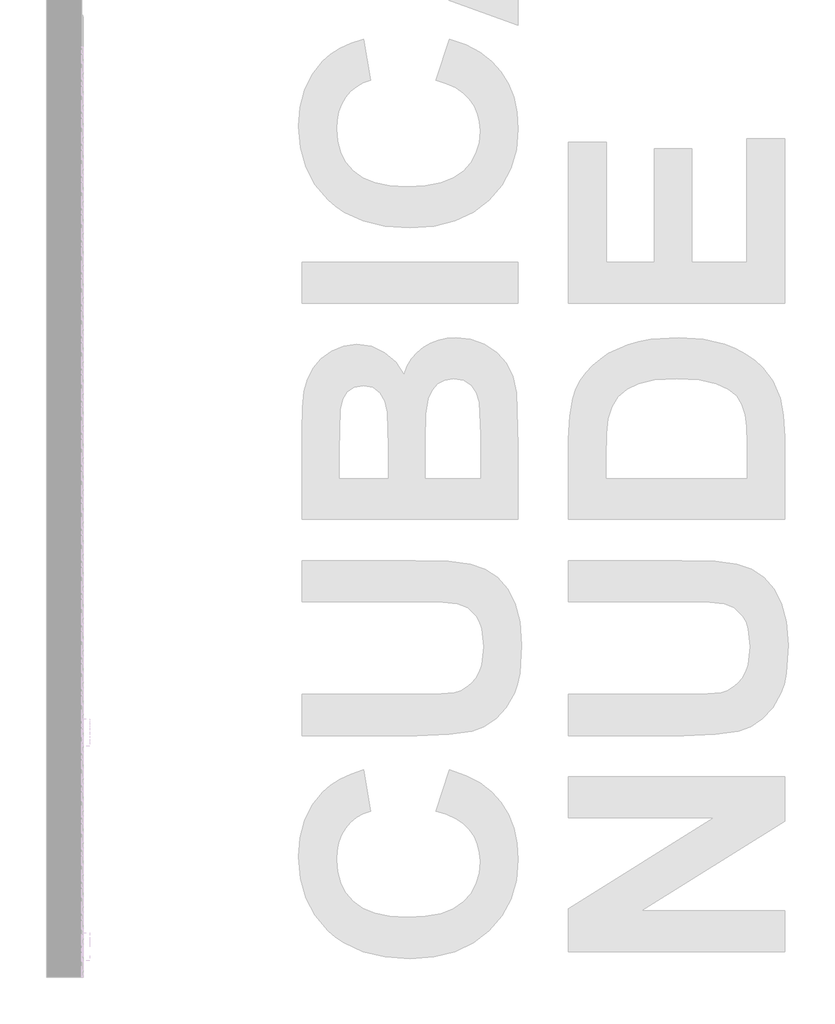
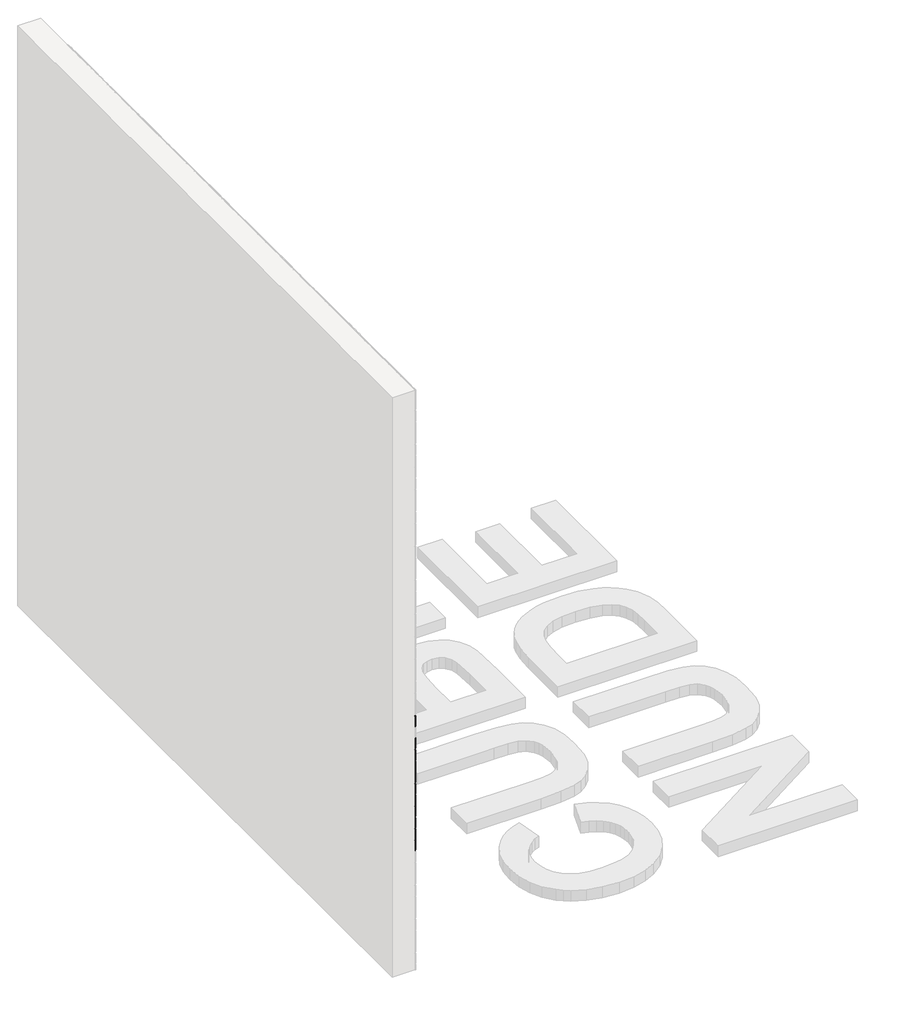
# One storey, part 50 of 121: 145 proxies.
"""IFC4 building model written with IfcOpenShell, lengths in millimetres."""

from ifc_helpers import new_model, si_unit, origin, place, context, project, spatial, transform, mapped, element, save
from components import generic_models_b2b2c5c1, generic_models_9bf73f6f, generic_models_5d175859, generic_models_45888c4d

model = new_model("IFC4")

# Units and contexts
model_context = context("Model", 3, world=origin())
ifc_project = project(units=[si_unit("LENGTHUNIT", "METRE", prefix="MILLI")], contexts=[model_context])

# Site, building, storey
site = spatial("IfcSite", under=ifc_project)
building = spatial("IfcBuilding", under=site)
storey = spatial("IfcBuildingStorey", under=building, Name="PORTOBELLO - SHOWROOM", Elevation=0.0)

# Proxies
placement = place(None, origin())
generic_models_shape = generic_models_b2b2c5c1(model_context)
element("IfcBuildingElementProxy", 1, Name="PBSHOP - CUBICA NUDE 4,8X8,3 : CUBICA NUDE - POSIÇÃO 01", ObjectType="PBSHOP - CUBICA NUDE 4,8X8,3 : CUBICA NUDE - POSIÇÃO 01", at=placement, inside=storey, context=model_context, shape_type="MappedRepresentation", body=[
    mapped(generic_models_shape, transform((150369.5341846, 6987.0029957, 591.9646354), x_axis=(0.0, 1.0, 0.0), y_axis=(0.0, 0.0, 1.0), z_axis=(1.0, 0.0, 0.0))),
])
element("IfcBuildingElementProxy", 2, Name="PBSHOP - CUBICA NUDE 4,8X8,3 : CUBICA NUDE - POSIÇÃO 01", ObjectType="PBSHOP - CUBICA NUDE 4,8X8,3 : CUBICA NUDE - POSIÇÃO 01", at=placement, inside=storey, context=model_context, shape_type="MappedRepresentation", body=[
    mapped(generic_models_shape, transform((150369.5341846, 6396.5477456, 670.8992738), x_axis=(0.0, 1.0, 0.0), y_axis=(0.0, 0.0, 1.0), z_axis=(1.0, 0.0, 0.0))),
])
element("IfcBuildingElementProxy", 3, Name="PBSHOP - CUBICA NUDE 4,8X8,3 : CUBICA NUDE - POSIÇÃO 01", ObjectType="PBSHOP - CUBICA NUDE 4,8X8,3 : CUBICA NUDE - POSIÇÃO 01", at=placement, inside=storey, context=model_context, shape_type="MappedRepresentation", body=[
    mapped(generic_models_shape, transform((150369.5341846, 6487.3870148, 670.8992738), x_axis=(0.0, 1.0, 0.0), y_axis=(0.0, 0.0, 1.0), z_axis=(1.0, 0.0, 0.0))),
])
element("IfcBuildingElementProxy", 4, Name="PBSHOP - CUBICA NUDE 4,8X8,3 : CUBICA NUDE - POSIÇÃO 01", ObjectType="PBSHOP - CUBICA NUDE 4,8X8,3 : CUBICA NUDE - POSIÇÃO 01", at=placement, inside=storey, context=model_context, shape_type="MappedRepresentation", body=[
    mapped(generic_models_shape, transform((150369.5341846, 6578.2262841, 670.8992738), x_axis=(0.0, 1.0, 0.0), y_axis=(0.0, 0.0, 1.0), z_axis=(1.0, 0.0, 0.0))),
])
element("IfcBuildingElementProxy", 5, Name="PBSHOP - CUBICA NUDE 4,8X8,3 : CUBICA NUDE - POSIÇÃO 01", ObjectType="PBSHOP - CUBICA NUDE 4,8X8,3 : CUBICA NUDE - POSIÇÃO 01", at=placement, inside=storey, context=model_context, shape_type="MappedRepresentation", body=[
    mapped(generic_models_shape, transform((150369.5341846, 6669.0655533, 670.8992738), x_axis=(0.0, 1.0, 0.0), y_axis=(0.0, 0.0, 1.0), z_axis=(1.0, 0.0, 0.0))),
])
element("IfcBuildingElementProxy", 6, Name="PBSHOP - CUBICA NUDE 4,8X8,3 : CUBICA NUDE - POSIÇÃO 01", ObjectType="PBSHOP - CUBICA NUDE 4,8X8,3 : CUBICA NUDE - POSIÇÃO 01", at=placement, inside=storey, context=model_context, shape_type="MappedRepresentation", body=[
    mapped(generic_models_shape, transform((150369.5341846, 6759.9048225, 670.8992738), x_axis=(0.0, 1.0, 0.0), y_axis=(0.0, 0.0, 1.0), z_axis=(1.0, 0.0, 0.0))),
])
element("IfcBuildingElementProxy", 7, Name="PBSHOP - CUBICA NUDE 4,8X8,3 : CUBICA NUDE - POSIÇÃO 01", ObjectType="PBSHOP - CUBICA NUDE 4,8X8,3 : CUBICA NUDE - POSIÇÃO 01", at=placement, inside=storey, context=model_context, shape_type="MappedRepresentation", body=[
    mapped(generic_models_shape, transform((150369.5341846, 6850.7440918, 670.8992738), x_axis=(0.0, 1.0, 0.0), y_axis=(0.0, 0.0, 1.0), z_axis=(1.0, 0.0, 0.0))),
])
element("IfcBuildingElementProxy", 8, Name="PBSHOP - CUBICA NUDE 4,8X8,3 : CUBICA NUDE - POSIÇÃO 01", ObjectType="PBSHOP - CUBICA NUDE 4,8X8,3 : CUBICA NUDE - POSIÇÃO 01", at=placement, inside=storey, context=model_context, shape_type="MappedRepresentation", body=[
    mapped(generic_models_shape, transform((150369.5341846, 6941.583361, 670.8992738), x_axis=(0.0, 1.0, 0.0), y_axis=(0.0, 0.0, 1.0), z_axis=(1.0, 0.0, 0.0))),
])
element("IfcBuildingElementProxy", 9, Name="PBSHOP - CUBICA NUDE 4,8X8,3 : CUBICA NUDE - POSIÇÃO 01", ObjectType="PBSHOP - CUBICA NUDE 4,8X8,3 : CUBICA NUDE - POSIÇÃO 01", at=placement, inside=storey, context=model_context, shape_type="MappedRepresentation", body=[
    mapped(generic_models_shape, transform((150369.5341846, 6441.9673802, 749.8339122), x_axis=(0.0, 1.0, 0.0), y_axis=(0.0, 0.0, 1.0), z_axis=(1.0, 0.0, 0.0))),
])
element("IfcBuildingElementProxy", 10, Name="PBSHOP - CUBICA NUDE 4,8X8,3 : CUBICA NUDE - POSIÇÃO 01", ObjectType="PBSHOP - CUBICA NUDE 4,8X8,3 : CUBICA NUDE - POSIÇÃO 01", at=placement, inside=storey, context=model_context, shape_type="MappedRepresentation", body=[
    mapped(generic_models_shape, transform((150369.5341846, 6532.8066494, 749.8339122), x_axis=(0.0, 1.0, 0.0), y_axis=(0.0, 0.0, 1.0), z_axis=(1.0, 0.0, 0.0))),
])
element("IfcBuildingElementProxy", 11, Name="PBSHOP - CUBICA NUDE 4,8X8,3 : CUBICA NUDE - POSIÇÃO 01", ObjectType="PBSHOP - CUBICA NUDE 4,8X8,3 : CUBICA NUDE - POSIÇÃO 01", at=placement, inside=storey, context=model_context, shape_type="MappedRepresentation", body=[
    mapped(generic_models_shape, transform((150369.5341846, 6623.6459187, 749.8339122), x_axis=(0.0, 1.0, 0.0), y_axis=(0.0, 0.0, 1.0), z_axis=(1.0, 0.0, 0.0))),
])
element("IfcBuildingElementProxy", 12, Name="PBSHOP - CUBICA NUDE 4,8X8,3 : CUBICA NUDE - POSIÇÃO 01", ObjectType="PBSHOP - CUBICA NUDE 4,8X8,3 : CUBICA NUDE - POSIÇÃO 01", at=placement, inside=storey, context=model_context, shape_type="MappedRepresentation", body=[
    mapped(generic_models_shape, transform((150369.5341846, 6714.4851879, 749.8339122), x_axis=(0.0, 1.0, 0.0), y_axis=(0.0, 0.0, 1.0), z_axis=(1.0, 0.0, 0.0))),
])
element("IfcBuildingElementProxy", 13, Name="PBSHOP - CUBICA NUDE 4,8X8,3 : CUBICA NUDE - POSIÇÃO 01", ObjectType="PBSHOP - CUBICA NUDE 4,8X8,3 : CUBICA NUDE - POSIÇÃO 01", at=placement, inside=storey, context=model_context, shape_type="MappedRepresentation", body=[
    mapped(generic_models_shape, transform((150369.5341846, 6805.3244572, 749.8339122), x_axis=(0.0, 1.0, 0.0), y_axis=(0.0, 0.0, 1.0), z_axis=(1.0, 0.0, 0.0))),
])
element("IfcBuildingElementProxy", 14, Name="PBSHOP - CUBICA NUDE 4,8X8,3 : CUBICA NUDE - POSIÇÃO 01", ObjectType="PBSHOP - CUBICA NUDE 4,8X8,3 : CUBICA NUDE - POSIÇÃO 01", at=placement, inside=storey, context=model_context, shape_type="MappedRepresentation", body=[
    mapped(generic_models_shape, transform((150369.5341846, 6896.1637264, 749.8339122), x_axis=(0.0, 1.0, 0.0), y_axis=(0.0, 0.0, 1.0), z_axis=(1.0, 0.0, 0.0))),
])
element("IfcBuildingElementProxy", 15, Name="PBSHOP - CUBICA NUDE 4,8X8,3 : CUBICA NUDE - POSIÇÃO 01", ObjectType="PBSHOP - CUBICA NUDE 4,8X8,3 : CUBICA NUDE - POSIÇÃO 01", at=placement, inside=storey, context=model_context, shape_type="MappedRepresentation", body=[
    mapped(generic_models_shape, transform((150369.5341846, 6987.0029957, 749.8339122), x_axis=(0.0, 1.0, 0.0), y_axis=(0.0, 0.0, 1.0), z_axis=(1.0, 0.0, 0.0))),
])
element("IfcBuildingElementProxy", 16, Name="PBSHOP - CUBICA NUDE 4,8X8,3 : CUBICA NUDE - POSIÇÃO 01", ObjectType="PBSHOP - CUBICA NUDE 4,8X8,3 : CUBICA NUDE - POSIÇÃO 01", at=placement, inside=storey, context=model_context, shape_type="MappedRepresentation", body=[
    mapped(generic_models_shape, transform((150369.5341846, 6396.5477456, 828.7685506), x_axis=(0.0, 1.0, 0.0), y_axis=(0.0, 0.0, 1.0), z_axis=(1.0, 0.0, 0.0))),
])
element("IfcBuildingElementProxy", 17, Name="PBSHOP - CUBICA NUDE 4,8X8,3 : CUBICA NUDE - POSIÇÃO 01", ObjectType="PBSHOP - CUBICA NUDE 4,8X8,3 : CUBICA NUDE - POSIÇÃO 01", at=placement, inside=storey, context=model_context, shape_type="MappedRepresentation", body=[
    mapped(generic_models_shape, transform((150369.5341846, 6487.3870148, 828.7685506), x_axis=(0.0, 1.0, 0.0), y_axis=(0.0, 0.0, 1.0), z_axis=(1.0, 0.0, 0.0))),
])
element("IfcBuildingElementProxy", 18, Name="PBSHOP - CUBICA NUDE 4,8X8,3 : CUBICA NUDE - POSIÇÃO 01", ObjectType="PBSHOP - CUBICA NUDE 4,8X8,3 : CUBICA NUDE - POSIÇÃO 01", at=placement, inside=storey, context=model_context, shape_type="MappedRepresentation", body=[
    mapped(generic_models_shape, transform((150369.5341846, 6578.2262841, 828.7685506), x_axis=(0.0, 1.0, 0.0), y_axis=(0.0, 0.0, 1.0), z_axis=(1.0, 0.0, 0.0))),
])
element("IfcBuildingElementProxy", 19, Name="PBSHOP - CUBICA NUDE 4,8X8,3 : CUBICA NUDE - POSIÇÃO 01", ObjectType="PBSHOP - CUBICA NUDE 4,8X8,3 : CUBICA NUDE - POSIÇÃO 01", at=placement, inside=storey, context=model_context, shape_type="MappedRepresentation", body=[
    mapped(generic_models_shape, transform((150369.5341846, 6669.0655533, 828.7685506), x_axis=(0.0, 1.0, 0.0), y_axis=(0.0, 0.0, 1.0), z_axis=(1.0, 0.0, 0.0))),
])
element("IfcBuildingElementProxy", 20, Name="PBSHOP - CUBICA NUDE 4,8X8,3 : CUBICA NUDE - POSIÇÃO 01", ObjectType="PBSHOP - CUBICA NUDE 4,8X8,3 : CUBICA NUDE - POSIÇÃO 01", at=placement, inside=storey, context=model_context, shape_type="MappedRepresentation", body=[
    mapped(generic_models_shape, transform((150369.5341846, 6759.9048225, 828.7685506), x_axis=(0.0, 1.0, 0.0), y_axis=(0.0, 0.0, 1.0), z_axis=(1.0, 0.0, 0.0))),
])
element("IfcBuildingElementProxy", 21, Name="PBSHOP - CUBICA NUDE 4,8X8,3 : CUBICA NUDE - POSIÇÃO 01", ObjectType="PBSHOP - CUBICA NUDE 4,8X8,3 : CUBICA NUDE - POSIÇÃO 01", at=placement, inside=storey, context=model_context, shape_type="MappedRepresentation", body=[
    mapped(generic_models_shape, transform((150369.5341846, 6850.7440918, 828.7685506), x_axis=(0.0, 1.0, 0.0), y_axis=(0.0, 0.0, 1.0), z_axis=(1.0, 0.0, 0.0))),
])
element("IfcBuildingElementProxy", 22, Name="PBSHOP - CUBICA NUDE 4,8X8,3 : CUBICA NUDE - POSIÇÃO 01", ObjectType="PBSHOP - CUBICA NUDE 4,8X8,3 : CUBICA NUDE - POSIÇÃO 01", at=placement, inside=storey, context=model_context, shape_type="MappedRepresentation", body=[
    mapped(generic_models_shape, transform((150369.5341846, 6941.583361, 828.7685506), x_axis=(0.0, 1.0, 0.0), y_axis=(0.0, 0.0, 1.0), z_axis=(1.0, 0.0, 0.0))),
])
element("IfcBuildingElementProxy", 23, Name="PBSHOP - CUBICA NUDE 4,8X8,3 : CUBICA NUDE - POSIÇÃO 01", ObjectType="PBSHOP - CUBICA NUDE 4,8X8,3 : CUBICA NUDE - POSIÇÃO 01", at=placement, inside=storey, context=model_context, shape_type="MappedRepresentation", body=[
    mapped(generic_models_shape, transform((150369.5341846, 6441.9673802, 907.7031889), x_axis=(0.0, 1.0, 0.0), y_axis=(0.0, 0.0, 1.0), z_axis=(1.0, 0.0, 0.0))),
])
element("IfcBuildingElementProxy", 24, Name="PBSHOP - CUBICA NUDE 4,8X8,3 : CUBICA NUDE - POSIÇÃO 01", ObjectType="PBSHOP - CUBICA NUDE 4,8X8,3 : CUBICA NUDE - POSIÇÃO 01", at=placement, inside=storey, context=model_context, shape_type="MappedRepresentation", body=[
    mapped(generic_models_shape, transform((150369.5341846, 6532.8066494, 907.7031889), x_axis=(0.0, 1.0, 0.0), y_axis=(0.0, 0.0, 1.0), z_axis=(1.0, 0.0, 0.0))),
])
element("IfcBuildingElementProxy", 25, Name="PBSHOP - CUBICA NUDE 4,8X8,3 : CUBICA NUDE - POSIÇÃO 01", ObjectType="PBSHOP - CUBICA NUDE 4,8X8,3 : CUBICA NUDE - POSIÇÃO 01", at=placement, inside=storey, context=model_context, shape_type="MappedRepresentation", body=[
    mapped(generic_models_shape, transform((150369.5341846, 6623.6459187, 907.7031889), x_axis=(0.0, 1.0, 0.0), y_axis=(0.0, 0.0, 1.0), z_axis=(1.0, 0.0, 0.0))),
])
element("IfcBuildingElementProxy", 26, Name="PBSHOP - CUBICA NUDE 4,8X8,3 : CUBICA NUDE - POSIÇÃO 01", ObjectType="PBSHOP - CUBICA NUDE 4,8X8,3 : CUBICA NUDE - POSIÇÃO 01", at=placement, inside=storey, context=model_context, shape_type="MappedRepresentation", body=[
    mapped(generic_models_shape, transform((150369.5341846, 6714.4851879, 907.7031889), x_axis=(0.0, 1.0, 0.0), y_axis=(0.0, 0.0, 1.0), z_axis=(1.0, 0.0, 0.0))),
])
element("IfcBuildingElementProxy", 27, Name="PBSHOP - CUBICA NUDE 4,8X8,3 : CUBICA NUDE - POSIÇÃO 01", ObjectType="PBSHOP - CUBICA NUDE 4,8X8,3 : CUBICA NUDE - POSIÇÃO 01", at=placement, inside=storey, context=model_context, shape_type="MappedRepresentation", body=[
    mapped(generic_models_shape, transform((150369.5341846, 6805.3244572, 907.7031889), x_axis=(0.0, 1.0, 0.0), y_axis=(0.0, 0.0, 1.0), z_axis=(1.0, 0.0, 0.0))),
])
element("IfcBuildingElementProxy", 28, Name="PBSHOP - CUBICA NUDE 4,8X8,3 : CUBICA NUDE - POSIÇÃO 01", ObjectType="PBSHOP - CUBICA NUDE 4,8X8,3 : CUBICA NUDE - POSIÇÃO 01", at=placement, inside=storey, context=model_context, shape_type="MappedRepresentation", body=[
    mapped(generic_models_shape, transform((150369.5341846, 6896.1637264, 907.7031889), x_axis=(0.0, 1.0, 0.0), y_axis=(0.0, 0.0, 1.0), z_axis=(1.0, 0.0, 0.0))),
])
element("IfcBuildingElementProxy", 29, Name="PBSHOP - CUBICA NUDE 4,8X8,3 : CUBICA NUDE - POSIÇÃO 01", ObjectType="PBSHOP - CUBICA NUDE 4,8X8,3 : CUBICA NUDE - POSIÇÃO 01", at=placement, inside=storey, context=model_context, shape_type="MappedRepresentation", body=[
    mapped(generic_models_shape, transform((150369.5341846, 6987.0029957, 907.7031889), x_axis=(0.0, 1.0, 0.0), y_axis=(0.0, 0.0, 1.0), z_axis=(1.0, 0.0, 0.0))),
])
element("IfcBuildingElementProxy", 30, Name="PBSHOP - CUBICA NUDE 4,8X8,3 : CUBICA NUDE - POSIÇÃO 01", ObjectType="PBSHOP - CUBICA NUDE 4,8X8,3 : CUBICA NUDE - POSIÇÃO 01", at=placement, inside=storey, context=model_context, shape_type="MappedRepresentation", body=[
    mapped(generic_models_shape, transform((150369.5341846, 6396.5477456, 986.6378273), x_axis=(0.0, 1.0, 0.0), y_axis=(0.0, 0.0, 1.0), z_axis=(1.0, 0.0, 0.0))),
])
element("IfcBuildingElementProxy", 31, Name="PBSHOP - CUBICA NUDE 4,8X8,3 : CUBICA NUDE - POSIÇÃO 01", ObjectType="PBSHOP - CUBICA NUDE 4,8X8,3 : CUBICA NUDE - POSIÇÃO 01", at=placement, inside=storey, context=model_context, shape_type="MappedRepresentation", body=[
    mapped(generic_models_shape, transform((150369.5341846, 6487.3870148, 986.6378273), x_axis=(0.0, 1.0, 0.0), y_axis=(0.0, 0.0, 1.0), z_axis=(1.0, 0.0, 0.0))),
])
element("IfcBuildingElementProxy", 32, Name="PBSHOP - CUBICA NUDE 4,8X8,3 : CUBICA NUDE - POSIÇÃO 01", ObjectType="PBSHOP - CUBICA NUDE 4,8X8,3 : CUBICA NUDE - POSIÇÃO 01", at=placement, inside=storey, context=model_context, shape_type="MappedRepresentation", body=[
    mapped(generic_models_shape, transform((150369.5341846, 6578.2262841, 986.6378273), x_axis=(0.0, 1.0, 0.0), y_axis=(0.0, 0.0, 1.0), z_axis=(1.0, 0.0, 0.0))),
])
element("IfcBuildingElementProxy", 33, Name="PBSHOP - CUBICA NUDE 4,8X8,3 : CUBICA NUDE - POSIÇÃO 01", ObjectType="PBSHOP - CUBICA NUDE 4,8X8,3 : CUBICA NUDE - POSIÇÃO 01", at=placement, inside=storey, context=model_context, shape_type="MappedRepresentation", body=[
    mapped(generic_models_shape, transform((150369.5341846, 6669.0655533, 986.6378273), x_axis=(0.0, 1.0, 0.0), y_axis=(0.0, 0.0, 1.0), z_axis=(1.0, 0.0, 0.0))),
])
element("IfcBuildingElementProxy", 34, Name="PBSHOP - CUBICA NUDE 4,8X8,3 : CUBICA NUDE - POSIÇÃO 01", ObjectType="PBSHOP - CUBICA NUDE 4,8X8,3 : CUBICA NUDE - POSIÇÃO 01", at=placement, inside=storey, context=model_context, shape_type="MappedRepresentation", body=[
    mapped(generic_models_shape, transform((150369.5341846, 6759.9048225, 986.6378273), x_axis=(0.0, 1.0, 0.0), y_axis=(0.0, 0.0, 1.0), z_axis=(1.0, 0.0, 0.0))),
])
element("IfcBuildingElementProxy", 35, Name="PBSHOP - CUBICA NUDE 4,8X8,3 : CUBICA NUDE - POSIÇÃO 01", ObjectType="PBSHOP - CUBICA NUDE 4,8X8,3 : CUBICA NUDE - POSIÇÃO 01", at=placement, inside=storey, context=model_context, shape_type="MappedRepresentation", body=[
    mapped(generic_models_shape, transform((150369.5341846, 6850.7440918, 986.6378273), x_axis=(0.0, 1.0, 0.0), y_axis=(0.0, 0.0, 1.0), z_axis=(1.0, 0.0, 0.0))),
])
element("IfcBuildingElementProxy", 36, Name="PBSHOP - CUBICA NUDE 4,8X8,3 : CUBICA NUDE - POSIÇÃO 01", ObjectType="PBSHOP - CUBICA NUDE 4,8X8,3 : CUBICA NUDE - POSIÇÃO 01", at=placement, inside=storey, context=model_context, shape_type="MappedRepresentation", body=[
    mapped(generic_models_shape, transform((150369.5341846, 6941.583361, 986.6378273), x_axis=(0.0, 1.0, 0.0), y_axis=(0.0, 0.0, 1.0), z_axis=(1.0, 0.0, 0.0))),
])
element("IfcBuildingElementProxy", 37, Name="PBSHOP - CUBICA NUDE 4,8X8,3 : CUBICA NUDE - POSIÇÃO 01", ObjectType="PBSHOP - CUBICA NUDE 4,8X8,3 : CUBICA NUDE - POSIÇÃO 01", at=placement, inside=storey, context=model_context, shape_type="MappedRepresentation", body=[
    mapped(generic_models_shape, transform((150369.5341846, 6441.9673802, 1065.5724657), x_axis=(0.0, 1.0, 0.0), y_axis=(0.0, 0.0, 1.0), z_axis=(1.0, 0.0, 0.0))),
])
element("IfcBuildingElementProxy", 38, Name="PBSHOP - CUBICA NUDE 4,8X8,3 : CUBICA NUDE - POSIÇÃO 01", ObjectType="PBSHOP - CUBICA NUDE 4,8X8,3 : CUBICA NUDE - POSIÇÃO 01", at=placement, inside=storey, context=model_context, shape_type="MappedRepresentation", body=[
    mapped(generic_models_shape, transform((150369.5341846, 6532.8066494, 1065.5724657), x_axis=(0.0, 1.0, 0.0), y_axis=(0.0, 0.0, 1.0), z_axis=(1.0, 0.0, 0.0))),
])
element("IfcBuildingElementProxy", 39, Name="PBSHOP - CUBICA NUDE 4,8X8,3 : CUBICA NUDE - POSIÇÃO 01", ObjectType="PBSHOP - CUBICA NUDE 4,8X8,3 : CUBICA NUDE - POSIÇÃO 01", at=placement, inside=storey, context=model_context, shape_type="MappedRepresentation", body=[
    mapped(generic_models_shape, transform((150369.5341846, 6623.6459187, 1065.5724657), x_axis=(0.0, 1.0, 0.0), y_axis=(0.0, 0.0, 1.0), z_axis=(1.0, 0.0, 0.0))),
])
element("IfcBuildingElementProxy", 40, Name="PBSHOP - CUBICA NUDE 4,8X8,3 : CUBICA NUDE - POSIÇÃO 01", ObjectType="PBSHOP - CUBICA NUDE 4,8X8,3 : CUBICA NUDE - POSIÇÃO 01", at=placement, inside=storey, context=model_context, shape_type="MappedRepresentation", body=[
    mapped(generic_models_shape, transform((150369.5341846, 6714.4851879, 1065.5724657), x_axis=(0.0, 1.0, 0.0), y_axis=(0.0, 0.0, 1.0), z_axis=(1.0, 0.0, 0.0))),
])
element("IfcBuildingElementProxy", 41, Name="PBSHOP - CUBICA NUDE 4,8X8,3 : CUBICA NUDE - POSIÇÃO 01", ObjectType="PBSHOP - CUBICA NUDE 4,8X8,3 : CUBICA NUDE - POSIÇÃO 01", at=placement, inside=storey, context=model_context, shape_type="MappedRepresentation", body=[
    mapped(generic_models_shape, transform((150369.5341846, 6805.3244572, 1065.5724657), x_axis=(0.0, 1.0, 0.0), y_axis=(0.0, 0.0, 1.0), z_axis=(1.0, 0.0, 0.0))),
])
element("IfcBuildingElementProxy", 42, Name="PBSHOP - CUBICA NUDE 4,8X8,3 : CUBICA NUDE - POSIÇÃO 01", ObjectType="PBSHOP - CUBICA NUDE 4,8X8,3 : CUBICA NUDE - POSIÇÃO 01", at=placement, inside=storey, context=model_context, shape_type="MappedRepresentation", body=[
    mapped(generic_models_shape, transform((150369.5341846, 6896.1637264, 1065.5724657), x_axis=(0.0, 1.0, 0.0), y_axis=(0.0, 0.0, 1.0), z_axis=(1.0, 0.0, 0.0))),
])
element("IfcBuildingElementProxy", 43, Name="PBSHOP - CUBICA NUDE 4,8X8,3 : CUBICA NUDE - POSIÇÃO 01", ObjectType="PBSHOP - CUBICA NUDE 4,8X8,3 : CUBICA NUDE - POSIÇÃO 01", at=placement, inside=storey, context=model_context, shape_type="MappedRepresentation", body=[
    mapped(generic_models_shape, transform((150369.5341846, 6987.0029957, 1065.5724657), x_axis=(0.0, 1.0, 0.0), y_axis=(0.0, 0.0, 1.0), z_axis=(1.0, 0.0, 0.0))),
])
element("IfcBuildingElementProxy", 44, Name="PBSHOP - CUBICA NUDE 4,8X8,3 : CUBICA NUDE - POSIÇÃO 01", ObjectType="PBSHOP - CUBICA NUDE 4,8X8,3 : CUBICA NUDE - POSIÇÃO 01", at=placement, inside=storey, context=model_context, shape_type="MappedRepresentation", body=[
    mapped(generic_models_shape, transform((150369.5341846, 6396.5477456, 1144.507104), x_axis=(0.0, 1.0, 0.0), y_axis=(0.0, 0.0, 1.0), z_axis=(1.0, 0.0, 0.0))),
])
element("IfcBuildingElementProxy", 45, Name="PBSHOP - CUBICA NUDE 4,8X8,3 : CUBICA NUDE - POSIÇÃO 01", ObjectType="PBSHOP - CUBICA NUDE 4,8X8,3 : CUBICA NUDE - POSIÇÃO 01", at=placement, inside=storey, context=model_context, shape_type="MappedRepresentation", body=[
    mapped(generic_models_shape, transform((150369.5341846, 6487.3870148, 1144.507104), x_axis=(0.0, 1.0, 0.0), y_axis=(0.0, 0.0, 1.0), z_axis=(1.0, 0.0, 0.0))),
])
element("IfcBuildingElementProxy", 46, Name="PBSHOP - CUBICA NUDE 4,8X8,3 : CUBICA NUDE - POSIÇÃO 01", ObjectType="PBSHOP - CUBICA NUDE 4,8X8,3 : CUBICA NUDE - POSIÇÃO 01", at=placement, inside=storey, context=model_context, shape_type="MappedRepresentation", body=[
    mapped(generic_models_shape, transform((150369.5341846, 6578.2262841, 1144.507104), x_axis=(0.0, 1.0, 0.0), y_axis=(0.0, 0.0, 1.0), z_axis=(1.0, 0.0, 0.0))),
])
element("IfcBuildingElementProxy", 47, Name="PBSHOP - CUBICA NUDE 4,8X8,3 : CUBICA NUDE - POSIÇÃO 01", ObjectType="PBSHOP - CUBICA NUDE 4,8X8,3 : CUBICA NUDE - POSIÇÃO 01", at=placement, inside=storey, context=model_context, shape_type="MappedRepresentation", body=[
    mapped(generic_models_shape, transform((150369.5341846, 6669.0655533, 1144.507104), x_axis=(0.0, 1.0, 0.0), y_axis=(0.0, 0.0, 1.0), z_axis=(1.0, 0.0, 0.0))),
])
element("IfcBuildingElementProxy", 48, Name="PBSHOP - CUBICA NUDE 4,8X8,3 : CUBICA NUDE - POSIÇÃO 01", ObjectType="PBSHOP - CUBICA NUDE 4,8X8,3 : CUBICA NUDE - POSIÇÃO 01", at=placement, inside=storey, context=model_context, shape_type="MappedRepresentation", body=[
    mapped(generic_models_shape, transform((150369.5341846, 6759.9048225, 1144.507104), x_axis=(0.0, 1.0, 0.0), y_axis=(0.0, 0.0, 1.0), z_axis=(1.0, 0.0, 0.0))),
])
generic_models_2_shape = generic_models_9bf73f6f(model_context)
element("IfcBuildingElementProxy", 49, Name="PBSHOP - CUBICA NUDE 4,8X8,3 : CUBICA NUDE - POSIÇÃO 03", ObjectType="PBSHOP - CUBICA NUDE 4,8X8,3 : CUBICA NUDE - POSIÇÃO 03", at=placement, inside=storey, context=model_context, shape_type="MappedRepresentation", body=[
    mapped(generic_models_2_shape, transform((150369.5341846, 6419.259722, 552.4561058), x_axis=(0.0, 1.0, 0.0), y_axis=(0.0, 0.0, 1.0), z_axis=(1.0, 0.0, 0.0))),
])
element("IfcBuildingElementProxy", 50, Name="PBSHOP - CUBICA NUDE 4,8X8,3 : CUBICA NUDE - POSIÇÃO 03", ObjectType="PBSHOP - CUBICA NUDE 4,8X8,3 : CUBICA NUDE - POSIÇÃO 03", at=placement, inside=storey, context=model_context, shape_type="MappedRepresentation", body=[
    mapped(generic_models_2_shape, transform((150369.5341846, 6510.0989913, 552.4561058), x_axis=(0.0, 1.0, 0.0), y_axis=(0.0, 0.0, 1.0), z_axis=(1.0, 0.0, 0.0))),
])
element("IfcBuildingElementProxy", 51, Name="PBSHOP - CUBICA NUDE 4,8X8,3 : CUBICA NUDE - POSIÇÃO 03", ObjectType="PBSHOP - CUBICA NUDE 4,8X8,3 : CUBICA NUDE - POSIÇÃO 03", at=placement, inside=storey, context=model_context, shape_type="MappedRepresentation", body=[
    mapped(generic_models_2_shape, transform((150369.5341846, 6600.9382605, 552.4561058), x_axis=(0.0, 1.0, 0.0), y_axis=(0.0, 0.0, 1.0), z_axis=(1.0, 0.0, 0.0))),
])
element("IfcBuildingElementProxy", 52, Name="PBSHOP - CUBICA NUDE 4,8X8,3 : CUBICA NUDE - POSIÇÃO 03", ObjectType="PBSHOP - CUBICA NUDE 4,8X8,3 : CUBICA NUDE - POSIÇÃO 03", at=placement, inside=storey, context=model_context, shape_type="MappedRepresentation", body=[
    mapped(generic_models_2_shape, transform((150369.5341846, 6691.7775298, 552.4561058), x_axis=(0.0, 1.0, 0.0), y_axis=(0.0, 0.0, 1.0), z_axis=(1.0, 0.0, 0.0))),
])
element("IfcBuildingElementProxy", 53, Name="PBSHOP - CUBICA NUDE 4,8X8,3 : CUBICA NUDE - POSIÇÃO 03", ObjectType="PBSHOP - CUBICA NUDE 4,8X8,3 : CUBICA NUDE - POSIÇÃO 03", at=placement, inside=storey, context=model_context, shape_type="MappedRepresentation", body=[
    mapped(generic_models_2_shape, transform((150369.5341846, 6782.616799, 552.4561058), x_axis=(0.0, 1.0, 0.0), y_axis=(0.0, 0.0, 1.0), z_axis=(1.0, 0.0, 0.0))),
])
element("IfcBuildingElementProxy", 54, Name="PBSHOP - CUBICA NUDE 4,8X8,3 : CUBICA NUDE - POSIÇÃO 03", ObjectType="PBSHOP - CUBICA NUDE 4,8X8,3 : CUBICA NUDE - POSIÇÃO 03", at=placement, inside=storey, context=model_context, shape_type="MappedRepresentation", body=[
    mapped(generic_models_2_shape, transform((150369.5341846, 6873.4560683, 552.4561058), x_axis=(0.0, 1.0, 0.0), y_axis=(0.0, 0.0, 1.0), z_axis=(1.0, 0.0, 0.0))),
])
element("IfcBuildingElementProxy", 55, Name="PBSHOP - CUBICA NUDE 4,8X8,3 : CUBICA NUDE - POSIÇÃO 03", ObjectType="PBSHOP - CUBICA NUDE 4,8X8,3 : CUBICA NUDE - POSIÇÃO 03", at=placement, inside=storey, context=model_context, shape_type="MappedRepresentation", body=[
    mapped(generic_models_2_shape, transform((150369.5341846, 6964.2953375, 552.4561058), x_axis=(0.0, 1.0, 0.0), y_axis=(0.0, 0.0, 1.0), z_axis=(1.0, 0.0, 0.0))),
])
element("IfcBuildingElementProxy", 56, Name="PBSHOP - CUBICA NUDE 4,8X8,3 : CUBICA NUDE - POSIÇÃO 03", ObjectType="PBSHOP - CUBICA NUDE 4,8X8,3 : CUBICA NUDE - POSIÇÃO 03", at=placement, inside=storey, context=model_context, shape_type="MappedRepresentation", body=[
    mapped(generic_models_2_shape, transform((150369.5341846, 6464.6793567, 631.3907442), x_axis=(0.0, 1.0, 0.0), y_axis=(0.0, 0.0, 1.0), z_axis=(1.0, 0.0, 0.0))),
])
element("IfcBuildingElementProxy", 57, Name="PBSHOP - CUBICA NUDE 4,8X8,3 : CUBICA NUDE - POSIÇÃO 03", ObjectType="PBSHOP - CUBICA NUDE 4,8X8,3 : CUBICA NUDE - POSIÇÃO 03", at=placement, inside=storey, context=model_context, shape_type="MappedRepresentation", body=[
    mapped(generic_models_2_shape, transform((150369.5341846, 6555.5186259, 631.3907442), x_axis=(0.0, 1.0, 0.0), y_axis=(0.0, 0.0, 1.0), z_axis=(1.0, 0.0, 0.0))),
])
element("IfcBuildingElementProxy", 58, Name="PBSHOP - CUBICA NUDE 4,8X8,3 : CUBICA NUDE - POSIÇÃO 03", ObjectType="PBSHOP - CUBICA NUDE 4,8X8,3 : CUBICA NUDE - POSIÇÃO 03", at=placement, inside=storey, context=model_context, shape_type="MappedRepresentation", body=[
    mapped(generic_models_2_shape, transform((150369.5341846, 6646.3578952, 631.3907442), x_axis=(0.0, 1.0, 0.0), y_axis=(0.0, 0.0, 1.0), z_axis=(1.0, 0.0, 0.0))),
])
element("IfcBuildingElementProxy", 59, Name="PBSHOP - CUBICA NUDE 4,8X8,3 : CUBICA NUDE - POSIÇÃO 03", ObjectType="PBSHOP - CUBICA NUDE 4,8X8,3 : CUBICA NUDE - POSIÇÃO 03", at=placement, inside=storey, context=model_context, shape_type="MappedRepresentation", body=[
    mapped(generic_models_2_shape, transform((150369.5341846, 6737.1971644, 631.3907442), x_axis=(0.0, 1.0, 0.0), y_axis=(0.0, 0.0, 1.0), z_axis=(1.0, 0.0, 0.0))),
])
element("IfcBuildingElementProxy", 60, Name="PBSHOP - CUBICA NUDE 4,8X8,3 : CUBICA NUDE - POSIÇÃO 03", ObjectType="PBSHOP - CUBICA NUDE 4,8X8,3 : CUBICA NUDE - POSIÇÃO 03", at=placement, inside=storey, context=model_context, shape_type="MappedRepresentation", body=[
    mapped(generic_models_2_shape, transform((150369.5341846, 6828.0364336, 631.3907442), x_axis=(0.0, 1.0, 0.0), y_axis=(0.0, 0.0, 1.0), z_axis=(1.0, 0.0, 0.0))),
])
element("IfcBuildingElementProxy", 61, Name="PBSHOP - CUBICA NUDE 4,8X8,3 : CUBICA NUDE - POSIÇÃO 03", ObjectType="PBSHOP - CUBICA NUDE 4,8X8,3 : CUBICA NUDE - POSIÇÃO 03", at=placement, inside=storey, context=model_context, shape_type="MappedRepresentation", body=[
    mapped(generic_models_2_shape, transform((150369.5341846, 6918.8757029, 631.3907442), x_axis=(0.0, 1.0, 0.0), y_axis=(0.0, 0.0, 1.0), z_axis=(1.0, 0.0, 0.0))),
])
element("IfcBuildingElementProxy", 62, Name="PBSHOP - CUBICA NUDE 4,8X8,3 : CUBICA NUDE - POSIÇÃO 03", ObjectType="PBSHOP - CUBICA NUDE 4,8X8,3 : CUBICA NUDE - POSIÇÃO 03", at=placement, inside=storey, context=model_context, shape_type="MappedRepresentation", body=[
    mapped(generic_models_2_shape, transform((150369.5341846, 6419.259722, 710.3253826), x_axis=(0.0, 1.0, 0.0), y_axis=(0.0, 0.0, 1.0), z_axis=(1.0, 0.0, 0.0))),
])
element("IfcBuildingElementProxy", 63, Name="PBSHOP - CUBICA NUDE 4,8X8,3 : CUBICA NUDE - POSIÇÃO 03", ObjectType="PBSHOP - CUBICA NUDE 4,8X8,3 : CUBICA NUDE - POSIÇÃO 03", at=placement, inside=storey, context=model_context, shape_type="MappedRepresentation", body=[
    mapped(generic_models_2_shape, transform((150369.5341846, 6510.0989913, 710.3253826), x_axis=(0.0, 1.0, 0.0), y_axis=(0.0, 0.0, 1.0), z_axis=(1.0, 0.0, 0.0))),
])
element("IfcBuildingElementProxy", 64, Name="PBSHOP - CUBICA NUDE 4,8X8,3 : CUBICA NUDE - POSIÇÃO 03", ObjectType="PBSHOP - CUBICA NUDE 4,8X8,3 : CUBICA NUDE - POSIÇÃO 03", at=placement, inside=storey, context=model_context, shape_type="MappedRepresentation", body=[
    mapped(generic_models_2_shape, transform((150369.5341846, 6600.9382605, 710.3253826), x_axis=(0.0, 1.0, 0.0), y_axis=(0.0, 0.0, 1.0), z_axis=(1.0, 0.0, 0.0))),
])
element("IfcBuildingElementProxy", 65, Name="PBSHOP - CUBICA NUDE 4,8X8,3 : CUBICA NUDE - POSIÇÃO 03", ObjectType="PBSHOP - CUBICA NUDE 4,8X8,3 : CUBICA NUDE - POSIÇÃO 03", at=placement, inside=storey, context=model_context, shape_type="MappedRepresentation", body=[
    mapped(generic_models_2_shape, transform((150369.5341846, 6691.7775298, 710.3253826), x_axis=(0.0, 1.0, 0.0), y_axis=(0.0, 0.0, 1.0), z_axis=(1.0, 0.0, 0.0))),
])
element("IfcBuildingElementProxy", 66, Name="PBSHOP - CUBICA NUDE 4,8X8,3 : CUBICA NUDE - POSIÇÃO 03", ObjectType="PBSHOP - CUBICA NUDE 4,8X8,3 : CUBICA NUDE - POSIÇÃO 03", at=placement, inside=storey, context=model_context, shape_type="MappedRepresentation", body=[
    mapped(generic_models_2_shape, transform((150369.5341846, 6782.616799, 710.3253826), x_axis=(0.0, 1.0, 0.0), y_axis=(0.0, 0.0, 1.0), z_axis=(1.0, 0.0, 0.0))),
])
element("IfcBuildingElementProxy", 67, Name="PBSHOP - CUBICA NUDE 4,8X8,3 : CUBICA NUDE - POSIÇÃO 03", ObjectType="PBSHOP - CUBICA NUDE 4,8X8,3 : CUBICA NUDE - POSIÇÃO 03", at=placement, inside=storey, context=model_context, shape_type="MappedRepresentation", body=[
    mapped(generic_models_2_shape, transform((150369.5341846, 6873.4560683, 710.3253826), x_axis=(0.0, 1.0, 0.0), y_axis=(0.0, 0.0, 1.0), z_axis=(1.0, 0.0, 0.0))),
])
element("IfcBuildingElementProxy", 68, Name="PBSHOP - CUBICA NUDE 4,8X8,3 : CUBICA NUDE - POSIÇÃO 03", ObjectType="PBSHOP - CUBICA NUDE 4,8X8,3 : CUBICA NUDE - POSIÇÃO 03", at=placement, inside=storey, context=model_context, shape_type="MappedRepresentation", body=[
    mapped(generic_models_2_shape, transform((150369.5341846, 6964.2953375, 710.3253826), x_axis=(0.0, 1.0, 0.0), y_axis=(0.0, 0.0, 1.0), z_axis=(1.0, 0.0, 0.0))),
])
element("IfcBuildingElementProxy", 69, Name="PBSHOP - CUBICA NUDE 4,8X8,3 : CUBICA NUDE - POSIÇÃO 03", ObjectType="PBSHOP - CUBICA NUDE 4,8X8,3 : CUBICA NUDE - POSIÇÃO 03", at=placement, inside=storey, context=model_context, shape_type="MappedRepresentation", body=[
    mapped(generic_models_2_shape, transform((150369.5341846, 6464.6793567, 789.2600209), x_axis=(0.0, 1.0, 0.0), y_axis=(0.0, 0.0, 1.0), z_axis=(1.0, 0.0, 0.0))),
])
element("IfcBuildingElementProxy", 70, Name="PBSHOP - CUBICA NUDE 4,8X8,3 : CUBICA NUDE - POSIÇÃO 03", ObjectType="PBSHOP - CUBICA NUDE 4,8X8,3 : CUBICA NUDE - POSIÇÃO 03", at=placement, inside=storey, context=model_context, shape_type="MappedRepresentation", body=[
    mapped(generic_models_2_shape, transform((150369.5341846, 6555.5186259, 789.2600209), x_axis=(0.0, 1.0, 0.0), y_axis=(0.0, 0.0, 1.0), z_axis=(1.0, 0.0, 0.0))),
])
element("IfcBuildingElementProxy", 71, Name="PBSHOP - CUBICA NUDE 4,8X8,3 : CUBICA NUDE - POSIÇÃO 03", ObjectType="PBSHOP - CUBICA NUDE 4,8X8,3 : CUBICA NUDE - POSIÇÃO 03", at=placement, inside=storey, context=model_context, shape_type="MappedRepresentation", body=[
    mapped(generic_models_2_shape, transform((150369.5341846, 6646.3578952, 789.2600209), x_axis=(0.0, 1.0, 0.0), y_axis=(0.0, 0.0, 1.0), z_axis=(1.0, 0.0, 0.0))),
])
element("IfcBuildingElementProxy", 72, Name="PBSHOP - CUBICA NUDE 4,8X8,3 : CUBICA NUDE - POSIÇÃO 03", ObjectType="PBSHOP - CUBICA NUDE 4,8X8,3 : CUBICA NUDE - POSIÇÃO 03", at=placement, inside=storey, context=model_context, shape_type="MappedRepresentation", body=[
    mapped(generic_models_2_shape, transform((150369.5341846, 6737.1971644, 789.2600209), x_axis=(0.0, 1.0, 0.0), y_axis=(0.0, 0.0, 1.0), z_axis=(1.0, 0.0, 0.0))),
])
element("IfcBuildingElementProxy", 73, Name="PBSHOP - CUBICA NUDE 4,8X8,3 : CUBICA NUDE - POSIÇÃO 03", ObjectType="PBSHOP - CUBICA NUDE 4,8X8,3 : CUBICA NUDE - POSIÇÃO 03", at=placement, inside=storey, context=model_context, shape_type="MappedRepresentation", body=[
    mapped(generic_models_2_shape, transform((150369.5341846, 6828.0364336, 789.2600209), x_axis=(0.0, 1.0, 0.0), y_axis=(0.0, 0.0, 1.0), z_axis=(1.0, 0.0, 0.0))),
])
element("IfcBuildingElementProxy", 74, Name="PBSHOP - CUBICA NUDE 4,8X8,3 : CUBICA NUDE - POSIÇÃO 03", ObjectType="PBSHOP - CUBICA NUDE 4,8X8,3 : CUBICA NUDE - POSIÇÃO 03", at=placement, inside=storey, context=model_context, shape_type="MappedRepresentation", body=[
    mapped(generic_models_2_shape, transform((150369.5341846, 6918.8757029, 789.2600209), x_axis=(0.0, 1.0, 0.0), y_axis=(0.0, 0.0, 1.0), z_axis=(1.0, 0.0, 0.0))),
])
element("IfcBuildingElementProxy", 75, Name="PBSHOP - CUBICA NUDE 4,8X8,3 : CUBICA NUDE - POSIÇÃO 03", ObjectType="PBSHOP - CUBICA NUDE 4,8X8,3 : CUBICA NUDE - POSIÇÃO 03", at=placement, inside=storey, context=model_context, shape_type="MappedRepresentation", body=[
    mapped(generic_models_2_shape, transform((150369.5341846, 6419.259722, 868.1946593), x_axis=(0.0, 1.0, 0.0), y_axis=(0.0, 0.0, 1.0), z_axis=(1.0, 0.0, 0.0))),
])
element("IfcBuildingElementProxy", 76, Name="PBSHOP - CUBICA NUDE 4,8X8,3 : CUBICA NUDE - POSIÇÃO 03", ObjectType="PBSHOP - CUBICA NUDE 4,8X8,3 : CUBICA NUDE - POSIÇÃO 03", at=placement, inside=storey, context=model_context, shape_type="MappedRepresentation", body=[
    mapped(generic_models_2_shape, transform((150369.5341846, 6510.0989913, 868.1946593), x_axis=(0.0, 1.0, 0.0), y_axis=(0.0, 0.0, 1.0), z_axis=(1.0, 0.0, 0.0))),
])
element("IfcBuildingElementProxy", 77, Name="PBSHOP - CUBICA NUDE 4,8X8,3 : CUBICA NUDE - POSIÇÃO 03", ObjectType="PBSHOP - CUBICA NUDE 4,8X8,3 : CUBICA NUDE - POSIÇÃO 03", at=placement, inside=storey, context=model_context, shape_type="MappedRepresentation", body=[
    mapped(generic_models_2_shape, transform((150369.5341846, 6600.9382605, 868.1946593), x_axis=(0.0, 1.0, 0.0), y_axis=(0.0, 0.0, 1.0), z_axis=(1.0, 0.0, 0.0))),
])
element("IfcBuildingElementProxy", 78, Name="PBSHOP - CUBICA NUDE 4,8X8,3 : CUBICA NUDE - POSIÇÃO 03", ObjectType="PBSHOP - CUBICA NUDE 4,8X8,3 : CUBICA NUDE - POSIÇÃO 03", at=placement, inside=storey, context=model_context, shape_type="MappedRepresentation", body=[
    mapped(generic_models_2_shape, transform((150369.5341846, 6691.7775298, 868.1946593), x_axis=(0.0, 1.0, 0.0), y_axis=(0.0, 0.0, 1.0), z_axis=(1.0, 0.0, 0.0))),
])
element("IfcBuildingElementProxy", 79, Name="PBSHOP - CUBICA NUDE 4,8X8,3 : CUBICA NUDE - POSIÇÃO 03", ObjectType="PBSHOP - CUBICA NUDE 4,8X8,3 : CUBICA NUDE - POSIÇÃO 03", at=placement, inside=storey, context=model_context, shape_type="MappedRepresentation", body=[
    mapped(generic_models_2_shape, transform((150369.5341846, 6782.616799, 868.1946593), x_axis=(0.0, 1.0, 0.0), y_axis=(0.0, 0.0, 1.0), z_axis=(1.0, 0.0, 0.0))),
])
element("IfcBuildingElementProxy", 80, Name="PBSHOP - CUBICA NUDE 4,8X8,3 : CUBICA NUDE - POSIÇÃO 03", ObjectType="PBSHOP - CUBICA NUDE 4,8X8,3 : CUBICA NUDE - POSIÇÃO 03", at=placement, inside=storey, context=model_context, shape_type="MappedRepresentation", body=[
    mapped(generic_models_2_shape, transform((150369.5341846, 6873.4560683, 868.1946593), x_axis=(0.0, 1.0, 0.0), y_axis=(0.0, 0.0, 1.0), z_axis=(1.0, 0.0, 0.0))),
])
element("IfcBuildingElementProxy", 81, Name="PBSHOP - CUBICA NUDE 4,8X8,3 : CUBICA NUDE - POSIÇÃO 03", ObjectType="PBSHOP - CUBICA NUDE 4,8X8,3 : CUBICA NUDE - POSIÇÃO 03", at=placement, inside=storey, context=model_context, shape_type="MappedRepresentation", body=[
    mapped(generic_models_2_shape, transform((150369.5341846, 6964.2953375, 868.1946593), x_axis=(0.0, 1.0, 0.0), y_axis=(0.0, 0.0, 1.0), z_axis=(1.0, 0.0, 0.0))),
])
element("IfcBuildingElementProxy", 82, Name="PBSHOP - CUBICA NUDE 4,8X8,3 : CUBICA NUDE - POSIÇÃO 03", ObjectType="PBSHOP - CUBICA NUDE 4,8X8,3 : CUBICA NUDE - POSIÇÃO 03", at=placement, inside=storey, context=model_context, shape_type="MappedRepresentation", body=[
    mapped(generic_models_2_shape, transform((150369.5341846, 6464.6793567, 947.1292977), x_axis=(0.0, 1.0, 0.0), y_axis=(0.0, 0.0, 1.0), z_axis=(1.0, 0.0, 0.0))),
])
element("IfcBuildingElementProxy", 83, Name="PBSHOP - CUBICA NUDE 4,8X8,3 : CUBICA NUDE - POSIÇÃO 03", ObjectType="PBSHOP - CUBICA NUDE 4,8X8,3 : CUBICA NUDE - POSIÇÃO 03", at=placement, inside=storey, context=model_context, shape_type="MappedRepresentation", body=[
    mapped(generic_models_2_shape, transform((150369.5341846, 6555.5186259, 947.1292977), x_axis=(0.0, 1.0, 0.0), y_axis=(0.0, 0.0, 1.0), z_axis=(1.0, 0.0, 0.0))),
])
element("IfcBuildingElementProxy", 84, Name="PBSHOP - CUBICA NUDE 4,8X8,3 : CUBICA NUDE - POSIÇÃO 03", ObjectType="PBSHOP - CUBICA NUDE 4,8X8,3 : CUBICA NUDE - POSIÇÃO 03", at=placement, inside=storey, context=model_context, shape_type="MappedRepresentation", body=[
    mapped(generic_models_2_shape, transform((150369.5341846, 6646.3578952, 947.1292977), x_axis=(0.0, 1.0, 0.0), y_axis=(0.0, 0.0, 1.0), z_axis=(1.0, 0.0, 0.0))),
])
element("IfcBuildingElementProxy", 85, Name="PBSHOP - CUBICA NUDE 4,8X8,3 : CUBICA NUDE - POSIÇÃO 03", ObjectType="PBSHOP - CUBICA NUDE 4,8X8,3 : CUBICA NUDE - POSIÇÃO 03", at=placement, inside=storey, context=model_context, shape_type="MappedRepresentation", body=[
    mapped(generic_models_2_shape, transform((150369.5341846, 6737.1971644, 947.1292977), x_axis=(0.0, 1.0, 0.0), y_axis=(0.0, 0.0, 1.0), z_axis=(1.0, 0.0, 0.0))),
])
element("IfcBuildingElementProxy", 86, Name="PBSHOP - CUBICA NUDE 4,8X8,3 : CUBICA NUDE - POSIÇÃO 03", ObjectType="PBSHOP - CUBICA NUDE 4,8X8,3 : CUBICA NUDE - POSIÇÃO 03", at=placement, inside=storey, context=model_context, shape_type="MappedRepresentation", body=[
    mapped(generic_models_2_shape, transform((150369.5341846, 6828.0364336, 947.1292977), x_axis=(0.0, 1.0, 0.0), y_axis=(0.0, 0.0, 1.0), z_axis=(1.0, 0.0, 0.0))),
])
element("IfcBuildingElementProxy", 87, Name="PBSHOP - CUBICA NUDE 4,8X8,3 : CUBICA NUDE - POSIÇÃO 03", ObjectType="PBSHOP - CUBICA NUDE 4,8X8,3 : CUBICA NUDE - POSIÇÃO 03", at=placement, inside=storey, context=model_context, shape_type="MappedRepresentation", body=[
    mapped(generic_models_2_shape, transform((150369.5341846, 6918.8757029, 947.1292977), x_axis=(0.0, 1.0, 0.0), y_axis=(0.0, 0.0, 1.0), z_axis=(1.0, 0.0, 0.0))),
])
element("IfcBuildingElementProxy", 88, Name="PBSHOP - CUBICA NUDE 4,8X8,3 : CUBICA NUDE - POSIÇÃO 03", ObjectType="PBSHOP - CUBICA NUDE 4,8X8,3 : CUBICA NUDE - POSIÇÃO 03", at=placement, inside=storey, context=model_context, shape_type="MappedRepresentation", body=[
    mapped(generic_models_2_shape, transform((150369.5341846, 6419.259722, 1026.0639361), x_axis=(0.0, 1.0, 0.0), y_axis=(0.0, 0.0, 1.0), z_axis=(1.0, 0.0, 0.0))),
])
element("IfcBuildingElementProxy", 89, Name="PBSHOP - CUBICA NUDE 4,8X8,3 : CUBICA NUDE - POSIÇÃO 03", ObjectType="PBSHOP - CUBICA NUDE 4,8X8,3 : CUBICA NUDE - POSIÇÃO 03", at=placement, inside=storey, context=model_context, shape_type="MappedRepresentation", body=[
    mapped(generic_models_2_shape, transform((150369.5341846, 6510.0989913, 1026.0639361), x_axis=(0.0, 1.0, 0.0), y_axis=(0.0, 0.0, 1.0), z_axis=(1.0, 0.0, 0.0))),
])
element("IfcBuildingElementProxy", 90, Name="PBSHOP - CUBICA NUDE 4,8X8,3 : CUBICA NUDE - POSIÇÃO 03", ObjectType="PBSHOP - CUBICA NUDE 4,8X8,3 : CUBICA NUDE - POSIÇÃO 03", at=placement, inside=storey, context=model_context, shape_type="MappedRepresentation", body=[
    mapped(generic_models_2_shape, transform((150369.5341846, 6600.9382605, 1026.0639361), x_axis=(0.0, 1.0, 0.0), y_axis=(0.0, 0.0, 1.0), z_axis=(1.0, 0.0, 0.0))),
])
element("IfcBuildingElementProxy", 91, Name="PBSHOP - CUBICA NUDE 4,8X8,3 : CUBICA NUDE - POSIÇÃO 03", ObjectType="PBSHOP - CUBICA NUDE 4,8X8,3 : CUBICA NUDE - POSIÇÃO 03", at=placement, inside=storey, context=model_context, shape_type="MappedRepresentation", body=[
    mapped(generic_models_2_shape, transform((150369.5341846, 6691.7775298, 1026.0639361), x_axis=(0.0, 1.0, 0.0), y_axis=(0.0, 0.0, 1.0), z_axis=(1.0, 0.0, 0.0))),
])
element("IfcBuildingElementProxy", 92, Name="PBSHOP - CUBICA NUDE 4,8X8,3 : CUBICA NUDE - POSIÇÃO 03", ObjectType="PBSHOP - CUBICA NUDE 4,8X8,3 : CUBICA NUDE - POSIÇÃO 03", at=placement, inside=storey, context=model_context, shape_type="MappedRepresentation", body=[
    mapped(generic_models_2_shape, transform((150369.5341846, 6782.616799, 1026.0639361), x_axis=(0.0, 1.0, 0.0), y_axis=(0.0, 0.0, 1.0), z_axis=(1.0, 0.0, 0.0))),
])
element("IfcBuildingElementProxy", 93, Name="PBSHOP - CUBICA NUDE 4,8X8,3 : CUBICA NUDE - POSIÇÃO 03", ObjectType="PBSHOP - CUBICA NUDE 4,8X8,3 : CUBICA NUDE - POSIÇÃO 03", at=placement, inside=storey, context=model_context, shape_type="MappedRepresentation", body=[
    mapped(generic_models_2_shape, transform((150369.5341846, 6873.4560683, 1026.0639361), x_axis=(0.0, 1.0, 0.0), y_axis=(0.0, 0.0, 1.0), z_axis=(1.0, 0.0, 0.0))),
])
element("IfcBuildingElementProxy", 94, Name="PBSHOP - CUBICA NUDE 4,8X8,3 : CUBICA NUDE - POSIÇÃO 03", ObjectType="PBSHOP - CUBICA NUDE 4,8X8,3 : CUBICA NUDE - POSIÇÃO 03", at=placement, inside=storey, context=model_context, shape_type="MappedRepresentation", body=[
    mapped(generic_models_2_shape, transform((150369.5341846, 6964.2953375, 1026.0639361), x_axis=(0.0, 1.0, 0.0), y_axis=(0.0, 0.0, 1.0), z_axis=(1.0, 0.0, 0.0))),
])
generic_models_3_shape = generic_models_5d175859(model_context)
element("IfcBuildingElementProxy", 95, Name="PBSHOP - CUBICA NUDE 4,8X8,3 : CUBICA NUDE - POSIÇÃO 01", ObjectType="PBSHOP - CUBICA NUDE 4,8X8,3 : CUBICA NUDE - POSIÇÃO 01", at=placement, inside=storey, context=model_context, shape_type="MappedRepresentation", body=[
    mapped(generic_models_3_shape, transform((150369.5341846, 6941.5876794, 591.9646354), x_axis=(0.0, -1.0, 0.0), y_axis=(0.0, 0.0, -1.0), z_axis=(1.0, 0.0, 0.0))),
])
element("IfcBuildingElementProxy", 96, Name="PBSHOP - CUBICA NUDE 4,8X8,3 : CUBICA NUDE - POSIÇÃO 01", ObjectType="PBSHOP - CUBICA NUDE 4,8X8,3 : CUBICA NUDE - POSIÇÃO 01", at=placement, inside=storey, context=model_context, shape_type="MappedRepresentation", body=[
    mapped(generic_models_3_shape, transform((150369.5341846, 6396.5520639, 591.9646354), x_axis=(0.0, -1.0, 0.0), y_axis=(0.0, 0.0, -1.0), z_axis=(1.0, 0.0, 0.0))),
])
element("IfcBuildingElementProxy", 97, Name="PBSHOP - CUBICA NUDE 4,8X8,3 : CUBICA NUDE - POSIÇÃO 01", ObjectType="PBSHOP - CUBICA NUDE 4,8X8,3 : CUBICA NUDE - POSIÇÃO 01", at=placement, inside=storey, context=model_context, shape_type="MappedRepresentation", body=[
    mapped(generic_models_3_shape, transform((150369.5341846, 6441.9716985, 670.8992738), x_axis=(0.0, -1.0, 0.0), y_axis=(0.0, 0.0, -1.0), z_axis=(1.0, 0.0, 0.0))),
])
element("IfcBuildingElementProxy", 98, Name="PBSHOP - CUBICA NUDE 4,8X8,3 : CUBICA NUDE - POSIÇÃO 01", ObjectType="PBSHOP - CUBICA NUDE 4,8X8,3 : CUBICA NUDE - POSIÇÃO 01", at=placement, inside=storey, context=model_context, shape_type="MappedRepresentation", body=[
    mapped(generic_models_3_shape, transform((150369.5341846, 6532.8109678, 670.8992738), x_axis=(0.0, -1.0, 0.0), y_axis=(0.0, 0.0, -1.0), z_axis=(1.0, 0.0, 0.0))),
])
element("IfcBuildingElementProxy", 99, Name="PBSHOP - CUBICA NUDE 4,8X8,3 : CUBICA NUDE - POSIÇÃO 01", ObjectType="PBSHOP - CUBICA NUDE 4,8X8,3 : CUBICA NUDE - POSIÇÃO 01", at=placement, inside=storey, context=model_context, shape_type="MappedRepresentation", body=[
    mapped(generic_models_3_shape, transform((150369.5341846, 6623.650237, 670.8992738), x_axis=(0.0, -1.0, 0.0), y_axis=(0.0, 0.0, -1.0), z_axis=(1.0, 0.0, 0.0))),
])
element("IfcBuildingElementProxy", 100, Name="PBSHOP - CUBICA NUDE 4,8X8,3 : CUBICA NUDE - POSIÇÃO 01", ObjectType="PBSHOP - CUBICA NUDE 4,8X8,3 : CUBICA NUDE - POSIÇÃO 01", at=placement, inside=storey, context=model_context, shape_type="MappedRepresentation", body=[
    mapped(generic_models_3_shape, transform((150369.5341846, 6714.4895063, 670.8992738), x_axis=(0.0, -1.0, 0.0), y_axis=(0.0, 0.0, -1.0), z_axis=(1.0, 0.0, 0.0))),
])
element("IfcBuildingElementProxy", 101, Name="PBSHOP - CUBICA NUDE 4,8X8,3 : CUBICA NUDE - POSIÇÃO 01", ObjectType="PBSHOP - CUBICA NUDE 4,8X8,3 : CUBICA NUDE - POSIÇÃO 01", at=placement, inside=storey, context=model_context, shape_type="MappedRepresentation", body=[
    mapped(generic_models_3_shape, transform((150369.5341846, 6805.3287755, 670.8992738), x_axis=(0.0, -1.0, 0.0), y_axis=(0.0, 0.0, -1.0), z_axis=(1.0, 0.0, 0.0))),
])
element("IfcBuildingElementProxy", 102, Name="PBSHOP - CUBICA NUDE 4,8X8,3 : CUBICA NUDE - POSIÇÃO 01", ObjectType="PBSHOP - CUBICA NUDE 4,8X8,3 : CUBICA NUDE - POSIÇÃO 01", at=placement, inside=storey, context=model_context, shape_type="MappedRepresentation", body=[
    mapped(generic_models_3_shape, transform((150369.5341846, 6896.1680447, 670.8992738), x_axis=(0.0, -1.0, 0.0), y_axis=(0.0, 0.0, -1.0), z_axis=(1.0, 0.0, 0.0))),
])
element("IfcBuildingElementProxy", 103, Name="PBSHOP - CUBICA NUDE 4,8X8,3 : CUBICA NUDE - POSIÇÃO 01", ObjectType="PBSHOP - CUBICA NUDE 4,8X8,3 : CUBICA NUDE - POSIÇÃO 01", at=placement, inside=storey, context=model_context, shape_type="MappedRepresentation", body=[
    mapped(generic_models_3_shape, transform((150369.5341846, 6987.007314, 670.8992738), x_axis=(0.0, -1.0, 0.0), y_axis=(0.0, 0.0, -1.0), z_axis=(1.0, 0.0, 0.0))),
])
element("IfcBuildingElementProxy", 104, Name="PBSHOP - CUBICA NUDE 4,8X8,3 : CUBICA NUDE - POSIÇÃO 01", ObjectType="PBSHOP - CUBICA NUDE 4,8X8,3 : CUBICA NUDE - POSIÇÃO 01", at=placement, inside=storey, context=model_context, shape_type="MappedRepresentation", body=[
    mapped(generic_models_3_shape, transform((150369.5341846, 6487.3913331, 749.8339122), x_axis=(0.0, -1.0, 0.0), y_axis=(0.0, 0.0, -1.0), z_axis=(1.0, 0.0, 0.0))),
])
element("IfcBuildingElementProxy", 105, Name="PBSHOP - CUBICA NUDE 4,8X8,3 : CUBICA NUDE - POSIÇÃO 01", ObjectType="PBSHOP - CUBICA NUDE 4,8X8,3 : CUBICA NUDE - POSIÇÃO 01", at=placement, inside=storey, context=model_context, shape_type="MappedRepresentation", body=[
    mapped(generic_models_3_shape, transform((150369.5341846, 6578.2306024, 749.8339122), x_axis=(0.0, -1.0, 0.0), y_axis=(0.0, 0.0, -1.0), z_axis=(1.0, 0.0, 0.0))),
])
element("IfcBuildingElementProxy", 106, Name="PBSHOP - CUBICA NUDE 4,8X8,3 : CUBICA NUDE - POSIÇÃO 01", ObjectType="PBSHOP - CUBICA NUDE 4,8X8,3 : CUBICA NUDE - POSIÇÃO 01", at=placement, inside=storey, context=model_context, shape_type="MappedRepresentation", body=[
    mapped(generic_models_3_shape, transform((150369.5341846, 6669.0698716, 749.8339122), x_axis=(0.0, -1.0, 0.0), y_axis=(0.0, 0.0, -1.0), z_axis=(1.0, 0.0, 0.0))),
])
element("IfcBuildingElementProxy", 107, Name="PBSHOP - CUBICA NUDE 4,8X8,3 : CUBICA NUDE - POSIÇÃO 01", ObjectType="PBSHOP - CUBICA NUDE 4,8X8,3 : CUBICA NUDE - POSIÇÃO 01", at=placement, inside=storey, context=model_context, shape_type="MappedRepresentation", body=[
    mapped(generic_models_3_shape, transform((150369.5341846, 6759.9091409, 749.8339122), x_axis=(0.0, -1.0, 0.0), y_axis=(0.0, 0.0, -1.0), z_axis=(1.0, 0.0, 0.0))),
])
element("IfcBuildingElementProxy", 108, Name="PBSHOP - CUBICA NUDE 4,8X8,3 : CUBICA NUDE - POSIÇÃO 01", ObjectType="PBSHOP - CUBICA NUDE 4,8X8,3 : CUBICA NUDE - POSIÇÃO 01", at=placement, inside=storey, context=model_context, shape_type="MappedRepresentation", body=[
    mapped(generic_models_3_shape, transform((150369.5341846, 6850.7484101, 749.8339122), x_axis=(0.0, -1.0, 0.0), y_axis=(0.0, 0.0, -1.0), z_axis=(1.0, 0.0, 0.0))),
])
element("IfcBuildingElementProxy", 109, Name="PBSHOP - CUBICA NUDE 4,8X8,3 : CUBICA NUDE - POSIÇÃO 01", ObjectType="PBSHOP - CUBICA NUDE 4,8X8,3 : CUBICA NUDE - POSIÇÃO 01", at=placement, inside=storey, context=model_context, shape_type="MappedRepresentation", body=[
    mapped(generic_models_3_shape, transform((150369.5341846, 6941.5876794, 749.8339122), x_axis=(0.0, -1.0, 0.0), y_axis=(0.0, 0.0, -1.0), z_axis=(1.0, 0.0, 0.0))),
])
element("IfcBuildingElementProxy", 110, Name="PBSHOP - CUBICA NUDE 4,8X8,3 : CUBICA NUDE - POSIÇÃO 01", ObjectType="PBSHOP - CUBICA NUDE 4,8X8,3 : CUBICA NUDE - POSIÇÃO 01", at=placement, inside=storey, context=model_context, shape_type="MappedRepresentation", body=[
    mapped(generic_models_3_shape, transform((150369.5341846, 6396.5520639, 749.8339122), x_axis=(0.0, -1.0, 0.0), y_axis=(0.0, 0.0, -1.0), z_axis=(1.0, 0.0, 0.0))),
])
element("IfcBuildingElementProxy", 111, Name="PBSHOP - CUBICA NUDE 4,8X8,3 : CUBICA NUDE - POSIÇÃO 01", ObjectType="PBSHOP - CUBICA NUDE 4,8X8,3 : CUBICA NUDE - POSIÇÃO 01", at=placement, inside=storey, context=model_context, shape_type="MappedRepresentation", body=[
    mapped(generic_models_3_shape, transform((150369.5341846, 6441.9716985, 828.7685506), x_axis=(0.0, -1.0, 0.0), y_axis=(0.0, 0.0, -1.0), z_axis=(1.0, 0.0, 0.0))),
])
element("IfcBuildingElementProxy", 112, Name="PBSHOP - CUBICA NUDE 4,8X8,3 : CUBICA NUDE - POSIÇÃO 01", ObjectType="PBSHOP - CUBICA NUDE 4,8X8,3 : CUBICA NUDE - POSIÇÃO 01", at=placement, inside=storey, context=model_context, shape_type="MappedRepresentation", body=[
    mapped(generic_models_3_shape, transform((150369.5341846, 6532.8109678, 828.7685506), x_axis=(0.0, -1.0, 0.0), y_axis=(0.0, 0.0, -1.0), z_axis=(1.0, 0.0, 0.0))),
])
element("IfcBuildingElementProxy", 113, Name="PBSHOP - CUBICA NUDE 4,8X8,3 : CUBICA NUDE - POSIÇÃO 01", ObjectType="PBSHOP - CUBICA NUDE 4,8X8,3 : CUBICA NUDE - POSIÇÃO 01", at=placement, inside=storey, context=model_context, shape_type="MappedRepresentation", body=[
    mapped(generic_models_3_shape, transform((150369.5341846, 6623.650237, 828.7685506), x_axis=(0.0, -1.0, 0.0), y_axis=(0.0, 0.0, -1.0), z_axis=(1.0, 0.0, 0.0))),
])
element("IfcBuildingElementProxy", 114, Name="PBSHOP - CUBICA NUDE 4,8X8,3 : CUBICA NUDE - POSIÇÃO 01", ObjectType="PBSHOP - CUBICA NUDE 4,8X8,3 : CUBICA NUDE - POSIÇÃO 01", at=placement, inside=storey, context=model_context, shape_type="MappedRepresentation", body=[
    mapped(generic_models_3_shape, transform((150369.5341846, 6714.4895063, 828.7685506), x_axis=(0.0, -1.0, 0.0), y_axis=(0.0, 0.0, -1.0), z_axis=(1.0, 0.0, 0.0))),
])
element("IfcBuildingElementProxy", 115, Name="PBSHOP - CUBICA NUDE 4,8X8,3 : CUBICA NUDE - POSIÇÃO 01", ObjectType="PBSHOP - CUBICA NUDE 4,8X8,3 : CUBICA NUDE - POSIÇÃO 01", at=placement, inside=storey, context=model_context, shape_type="MappedRepresentation", body=[
    mapped(generic_models_3_shape, transform((150369.5341846, 6805.3287755, 828.7685506), x_axis=(0.0, -1.0, 0.0), y_axis=(0.0, 0.0, -1.0), z_axis=(1.0, 0.0, 0.0))),
])
element("IfcBuildingElementProxy", 116, Name="PBSHOP - CUBICA NUDE 4,8X8,3 : CUBICA NUDE - POSIÇÃO 01", ObjectType="PBSHOP - CUBICA NUDE 4,8X8,3 : CUBICA NUDE - POSIÇÃO 01", at=placement, inside=storey, context=model_context, shape_type="MappedRepresentation", body=[
    mapped(generic_models_3_shape, transform((150369.5341846, 6896.1680447, 828.7685506), x_axis=(0.0, -1.0, 0.0), y_axis=(0.0, 0.0, -1.0), z_axis=(1.0, 0.0, 0.0))),
])
element("IfcBuildingElementProxy", 117, Name="PBSHOP - CUBICA NUDE 4,8X8,3 : CUBICA NUDE - POSIÇÃO 01", ObjectType="PBSHOP - CUBICA NUDE 4,8X8,3 : CUBICA NUDE - POSIÇÃO 01", at=placement, inside=storey, context=model_context, shape_type="MappedRepresentation", body=[
    mapped(generic_models_3_shape, transform((150369.5341846, 6987.007314, 828.7685506), x_axis=(0.0, -1.0, 0.0), y_axis=(0.0, 0.0, -1.0), z_axis=(1.0, 0.0, 0.0))),
])
element("IfcBuildingElementProxy", 118, Name="PBSHOP - CUBICA NUDE 4,8X8,3 : CUBICA NUDE - POSIÇÃO 01", ObjectType="PBSHOP - CUBICA NUDE 4,8X8,3 : CUBICA NUDE - POSIÇÃO 01", at=placement, inside=storey, context=model_context, shape_type="MappedRepresentation", body=[
    mapped(generic_models_3_shape, transform((150369.5341846, 6487.3913331, 907.7031889), x_axis=(0.0, -1.0, 0.0), y_axis=(0.0, 0.0, -1.0), z_axis=(1.0, 0.0, 0.0))),
])
element("IfcBuildingElementProxy", 119, Name="PBSHOP - CUBICA NUDE 4,8X8,3 : CUBICA NUDE - POSIÇÃO 01", ObjectType="PBSHOP - CUBICA NUDE 4,8X8,3 : CUBICA NUDE - POSIÇÃO 01", at=placement, inside=storey, context=model_context, shape_type="MappedRepresentation", body=[
    mapped(generic_models_3_shape, transform((150369.5341846, 6578.2306024, 907.7031889), x_axis=(0.0, -1.0, 0.0), y_axis=(0.0, 0.0, -1.0), z_axis=(1.0, 0.0, 0.0))),
])
element("IfcBuildingElementProxy", 120, Name="PBSHOP - CUBICA NUDE 4,8X8,3 : CUBICA NUDE - POSIÇÃO 01", ObjectType="PBSHOP - CUBICA NUDE 4,8X8,3 : CUBICA NUDE - POSIÇÃO 01", at=placement, inside=storey, context=model_context, shape_type="MappedRepresentation", body=[
    mapped(generic_models_3_shape, transform((150369.5341846, 6669.0698716, 907.7031889), x_axis=(0.0, -1.0, 0.0), y_axis=(0.0, 0.0, -1.0), z_axis=(1.0, 0.0, 0.0))),
])
element("IfcBuildingElementProxy", 121, Name="PBSHOP - CUBICA NUDE 4,8X8,3 : CUBICA NUDE - POSIÇÃO 01", ObjectType="PBSHOP - CUBICA NUDE 4,8X8,3 : CUBICA NUDE - POSIÇÃO 01", at=placement, inside=storey, context=model_context, shape_type="MappedRepresentation", body=[
    mapped(generic_models_3_shape, transform((150369.5341846, 6759.9091409, 907.7031889), x_axis=(0.0, -1.0, 0.0), y_axis=(0.0, 0.0, -1.0), z_axis=(1.0, 0.0, 0.0))),
])
element("IfcBuildingElementProxy", 122, Name="PBSHOP - CUBICA NUDE 4,8X8,3 : CUBICA NUDE - POSIÇÃO 01", ObjectType="PBSHOP - CUBICA NUDE 4,8X8,3 : CUBICA NUDE - POSIÇÃO 01", at=placement, inside=storey, context=model_context, shape_type="MappedRepresentation", body=[
    mapped(generic_models_3_shape, transform((150369.5341846, 6850.7484101, 907.7031889), x_axis=(0.0, -1.0, 0.0), y_axis=(0.0, 0.0, -1.0), z_axis=(1.0, 0.0, 0.0))),
])
element("IfcBuildingElementProxy", 123, Name="PBSHOP - CUBICA NUDE 4,8X8,3 : CUBICA NUDE - POSIÇÃO 01", ObjectType="PBSHOP - CUBICA NUDE 4,8X8,3 : CUBICA NUDE - POSIÇÃO 01", at=placement, inside=storey, context=model_context, shape_type="MappedRepresentation", body=[
    mapped(generic_models_3_shape, transform((150369.5341846, 6941.5876794, 907.7031889), x_axis=(0.0, -1.0, 0.0), y_axis=(0.0, 0.0, -1.0), z_axis=(1.0, 0.0, 0.0))),
])
element("IfcBuildingElementProxy", 124, Name="PBSHOP - CUBICA NUDE 4,8X8,3 : CUBICA NUDE - POSIÇÃO 01", ObjectType="PBSHOP - CUBICA NUDE 4,8X8,3 : CUBICA NUDE - POSIÇÃO 01", at=placement, inside=storey, context=model_context, shape_type="MappedRepresentation", body=[
    mapped(generic_models_3_shape, transform((150369.5341846, 6396.5520639, 907.7031889), x_axis=(0.0, -1.0, 0.0), y_axis=(0.0, 0.0, -1.0), z_axis=(1.0, 0.0, 0.0))),
])
element("IfcBuildingElementProxy", 125, Name="PBSHOP - CUBICA NUDE 4,8X8,3 : CUBICA NUDE - POSIÇÃO 01", ObjectType="PBSHOP - CUBICA NUDE 4,8X8,3 : CUBICA NUDE - POSIÇÃO 01", at=placement, inside=storey, context=model_context, shape_type="MappedRepresentation", body=[
    mapped(generic_models_3_shape, transform((150369.5341846, 6441.9716985, 986.6378273), x_axis=(0.0, -1.0, 0.0), y_axis=(0.0, 0.0, -1.0), z_axis=(1.0, 0.0, 0.0))),
])
element("IfcBuildingElementProxy", 126, Name="PBSHOP - CUBICA NUDE 4,8X8,3 : CUBICA NUDE - POSIÇÃO 01", ObjectType="PBSHOP - CUBICA NUDE 4,8X8,3 : CUBICA NUDE - POSIÇÃO 01", at=placement, inside=storey, context=model_context, shape_type="MappedRepresentation", body=[
    mapped(generic_models_3_shape, transform((150369.5341846, 6532.8109678, 986.6378273), x_axis=(0.0, -1.0, 0.0), y_axis=(0.0, 0.0, -1.0), z_axis=(1.0, 0.0, 0.0))),
])
element("IfcBuildingElementProxy", 127, Name="PBSHOP - CUBICA NUDE 4,8X8,3 : CUBICA NUDE - POSIÇÃO 01", ObjectType="PBSHOP - CUBICA NUDE 4,8X8,3 : CUBICA NUDE - POSIÇÃO 01", at=placement, inside=storey, context=model_context, shape_type="MappedRepresentation", body=[
    mapped(generic_models_3_shape, transform((150369.5341846, 6623.650237, 986.6378273), x_axis=(0.0, -1.0, 0.0), y_axis=(0.0, 0.0, -1.0), z_axis=(1.0, 0.0, 0.0))),
])
element("IfcBuildingElementProxy", 128, Name="PBSHOP - CUBICA NUDE 4,8X8,3 : CUBICA NUDE - POSIÇÃO 01", ObjectType="PBSHOP - CUBICA NUDE 4,8X8,3 : CUBICA NUDE - POSIÇÃO 01", at=placement, inside=storey, context=model_context, shape_type="MappedRepresentation", body=[
    mapped(generic_models_3_shape, transform((150369.5341846, 6714.4895063, 986.6378273), x_axis=(0.0, -1.0, 0.0), y_axis=(0.0, 0.0, -1.0), z_axis=(1.0, 0.0, 0.0))),
])
element("IfcBuildingElementProxy", 129, Name="PBSHOP - CUBICA NUDE 4,8X8,3 : CUBICA NUDE - POSIÇÃO 01", ObjectType="PBSHOP - CUBICA NUDE 4,8X8,3 : CUBICA NUDE - POSIÇÃO 01", at=placement, inside=storey, context=model_context, shape_type="MappedRepresentation", body=[
    mapped(generic_models_3_shape, transform((150369.5341846, 6805.3287755, 986.6378273), x_axis=(0.0, -1.0, 0.0), y_axis=(0.0, 0.0, -1.0), z_axis=(1.0, 0.0, 0.0))),
])
element("IfcBuildingElementProxy", 130, Name="PBSHOP - CUBICA NUDE 4,8X8,3 : CUBICA NUDE - POSIÇÃO 01", ObjectType="PBSHOP - CUBICA NUDE 4,8X8,3 : CUBICA NUDE - POSIÇÃO 01", at=placement, inside=storey, context=model_context, shape_type="MappedRepresentation", body=[
    mapped(generic_models_3_shape, transform((150369.5341846, 6896.1680447, 986.6378273), x_axis=(0.0, -1.0, 0.0), y_axis=(0.0, 0.0, -1.0), z_axis=(1.0, 0.0, 0.0))),
])
element("IfcBuildingElementProxy", 131, Name="PBSHOP - CUBICA NUDE 4,8X8,3 : CUBICA NUDE - POSIÇÃO 01", ObjectType="PBSHOP - CUBICA NUDE 4,8X8,3 : CUBICA NUDE - POSIÇÃO 01", at=placement, inside=storey, context=model_context, shape_type="MappedRepresentation", body=[
    mapped(generic_models_3_shape, transform((150369.5341846, 6987.007314, 986.6378273), x_axis=(0.0, -1.0, 0.0), y_axis=(0.0, 0.0, -1.0), z_axis=(1.0, 0.0, 0.0))),
])
element("IfcBuildingElementProxy", 132, Name="PBSHOP - CUBICA NUDE 4,8X8,3 : CUBICA NUDE - POSIÇÃO 01", ObjectType="PBSHOP - CUBICA NUDE 4,8X8,3 : CUBICA NUDE - POSIÇÃO 01", at=placement, inside=storey, context=model_context, shape_type="MappedRepresentation", body=[
    mapped(generic_models_3_shape, transform((150369.5341846, 6487.3913331, 1065.5724657), x_axis=(0.0, -1.0, 0.0), y_axis=(0.0, 0.0, -1.0), z_axis=(1.0, 0.0, 0.0))),
])
element("IfcBuildingElementProxy", 133, Name="PBSHOP - CUBICA NUDE 4,8X8,3 : CUBICA NUDE - POSIÇÃO 01", ObjectType="PBSHOP - CUBICA NUDE 4,8X8,3 : CUBICA NUDE - POSIÇÃO 01", at=placement, inside=storey, context=model_context, shape_type="MappedRepresentation", body=[
    mapped(generic_models_3_shape, transform((150369.5341846, 6578.2306024, 1065.5724657), x_axis=(0.0, -1.0, 0.0), y_axis=(0.0, 0.0, -1.0), z_axis=(1.0, 0.0, 0.0))),
])
element("IfcBuildingElementProxy", 134, Name="PBSHOP - CUBICA NUDE 4,8X8,3 : CUBICA NUDE - POSIÇÃO 01", ObjectType="PBSHOP - CUBICA NUDE 4,8X8,3 : CUBICA NUDE - POSIÇÃO 01", at=placement, inside=storey, context=model_context, shape_type="MappedRepresentation", body=[
    mapped(generic_models_3_shape, transform((150369.5341846, 6669.0698716, 1065.5724657), x_axis=(0.0, -1.0, 0.0), y_axis=(0.0, 0.0, -1.0), z_axis=(1.0, 0.0, 0.0))),
])
element("IfcBuildingElementProxy", 135, Name="PBSHOP - CUBICA NUDE 4,8X8,3 : CUBICA NUDE - POSIÇÃO 01", ObjectType="PBSHOP - CUBICA NUDE 4,8X8,3 : CUBICA NUDE - POSIÇÃO 01", at=placement, inside=storey, context=model_context, shape_type="MappedRepresentation", body=[
    mapped(generic_models_3_shape, transform((150369.5341846, 6759.9091409, 1065.5724657), x_axis=(0.0, -1.0, 0.0), y_axis=(0.0, 0.0, -1.0), z_axis=(1.0, 0.0, 0.0))),
])
element("IfcBuildingElementProxy", 136, Name="PBSHOP - CUBICA NUDE 4,8X8,3 : CUBICA NUDE - POSIÇÃO 01", ObjectType="PBSHOP - CUBICA NUDE 4,8X8,3 : CUBICA NUDE - POSIÇÃO 01", at=placement, inside=storey, context=model_context, shape_type="MappedRepresentation", body=[
    mapped(generic_models_3_shape, transform((150369.5341846, 6850.7484101, 1065.5724657), x_axis=(0.0, -1.0, 0.0), y_axis=(0.0, 0.0, -1.0), z_axis=(1.0, 0.0, 0.0))),
])
element("IfcBuildingElementProxy", 137, Name="PBSHOP - CUBICA NUDE 4,8X8,3 : CUBICA NUDE - POSIÇÃO 01", ObjectType="PBSHOP - CUBICA NUDE 4,8X8,3 : CUBICA NUDE - POSIÇÃO 01", at=placement, inside=storey, context=model_context, shape_type="MappedRepresentation", body=[
    mapped(generic_models_3_shape, transform((150369.5341846, 6941.5876794, 1065.5724657), x_axis=(0.0, -1.0, 0.0), y_axis=(0.0, 0.0, -1.0), z_axis=(1.0, 0.0, 0.0))),
])
element("IfcBuildingElementProxy", 138, Name="PBSHOP - CUBICA NUDE 4,8X8,3 : CUBICA NUDE - POSIÇÃO 01", ObjectType="PBSHOP - CUBICA NUDE 4,8X8,3 : CUBICA NUDE - POSIÇÃO 01", at=placement, inside=storey, context=model_context, shape_type="MappedRepresentation", body=[
    mapped(generic_models_3_shape, transform((150369.5341846, 6396.5520639, 1065.5724657), x_axis=(0.0, -1.0, 0.0), y_axis=(0.0, 0.0, -1.0), z_axis=(1.0, 0.0, 0.0))),
])
element("IfcBuildingElementProxy", 139, Name="PBSHOP - CUBICA NUDE 4,8X8,3 : CUBICA NUDE - POSIÇÃO 01", ObjectType="PBSHOP - CUBICA NUDE 4,8X8,3 : CUBICA NUDE - POSIÇÃO 01", at=placement, inside=storey, context=model_context, shape_type="MappedRepresentation", body=[
    mapped(generic_models_3_shape, transform((150369.5341846, 6441.9716985, 1144.507104), x_axis=(0.0, -1.0, 0.0), y_axis=(0.0, 0.0, -1.0), z_axis=(1.0, 0.0, 0.0))),
])
element("IfcBuildingElementProxy", 140, Name="PBSHOP - CUBICA NUDE 4,8X8,3 : CUBICA NUDE - POSIÇÃO 01", ObjectType="PBSHOP - CUBICA NUDE 4,8X8,3 : CUBICA NUDE - POSIÇÃO 01", at=placement, inside=storey, context=model_context, shape_type="MappedRepresentation", body=[
    mapped(generic_models_3_shape, transform((150369.5341846, 6532.8109678, 1144.507104), x_axis=(0.0, -1.0, 0.0), y_axis=(0.0, 0.0, -1.0), z_axis=(1.0, 0.0, 0.0))),
])
element("IfcBuildingElementProxy", 141, Name="PBSHOP - CUBICA NUDE 4,8X8,3 : CUBICA NUDE - POSIÇÃO 01", ObjectType="PBSHOP - CUBICA NUDE 4,8X8,3 : CUBICA NUDE - POSIÇÃO 01", at=placement, inside=storey, context=model_context, shape_type="MappedRepresentation", body=[
    mapped(generic_models_3_shape, transform((150369.5341846, 6623.650237, 1144.507104), x_axis=(0.0, -1.0, 0.0), y_axis=(0.0, 0.0, -1.0), z_axis=(1.0, 0.0, 0.0))),
])
element("IfcBuildingElementProxy", 142, Name="PBSHOP - CUBICA NUDE 4,8X8,3 : CUBICA NUDE - POSIÇÃO 01", ObjectType="PBSHOP - CUBICA NUDE 4,8X8,3 : CUBICA NUDE - POSIÇÃO 01", at=placement, inside=storey, context=model_context, shape_type="MappedRepresentation", body=[
    mapped(generic_models_3_shape, transform((150369.5341846, 6714.4895063, 1144.507104), x_axis=(0.0, -1.0, 0.0), y_axis=(0.0, 0.0, -1.0), z_axis=(1.0, 0.0, 0.0))),
])
generic_models_4_shape = generic_models_45888c4d(model_context)
element("IfcBuildingElementProxy", 143, Name="PBSHOP - CUBICA NUDE 4,8X8,3 : CUBICA NUDE - POSIÇÃO 03", ObjectType="PBSHOP - CUBICA NUDE 4,8X8,3 : CUBICA NUDE - POSIÇÃO 03", at=placement, inside=storey, context=model_context, shape_type="MappedRepresentation", body=[
    mapped(generic_models_4_shape, transform((150369.5341846, 6373.8400874, 631.3907442), x_axis=(0.0, 1.0, 0.0), y_axis=(0.0, 0.0, 1.0), z_axis=(1.0, 0.0, 0.0))),
])
element("IfcBuildingElementProxy", 144, Name="PBSHOP - CUBICA NUDE 4,8X8,3 : CUBICA NUDE - POSIÇÃO 03", ObjectType="PBSHOP - CUBICA NUDE 4,8X8,3 : CUBICA NUDE - POSIÇÃO 03", at=placement, inside=storey, context=model_context, shape_type="MappedRepresentation", body=[
    mapped(generic_models_4_shape, transform((150369.5341846, 6373.8400874, 789.2600209), x_axis=(0.0, 1.0, 0.0), y_axis=(0.0, 0.0, 1.0), z_axis=(1.0, 0.0, 0.0))),
])
element("IfcBuildingElementProxy", 145, Name="PBSHOP - CUBICA NUDE 4,8X8,3 : CUBICA NUDE - POSIÇÃO 03", ObjectType="PBSHOP - CUBICA NUDE 4,8X8,3 : CUBICA NUDE - POSIÇÃO 03", at=placement, inside=storey, context=model_context, shape_type="MappedRepresentation", body=[
    mapped(generic_models_4_shape, transform((150369.5341846, 6373.8400874, 947.1292977), x_axis=(0.0, 1.0, 0.0), y_axis=(0.0, 0.0, 1.0), z_axis=(1.0, 0.0, 0.0))),
])

save(model, "model.ifc")
